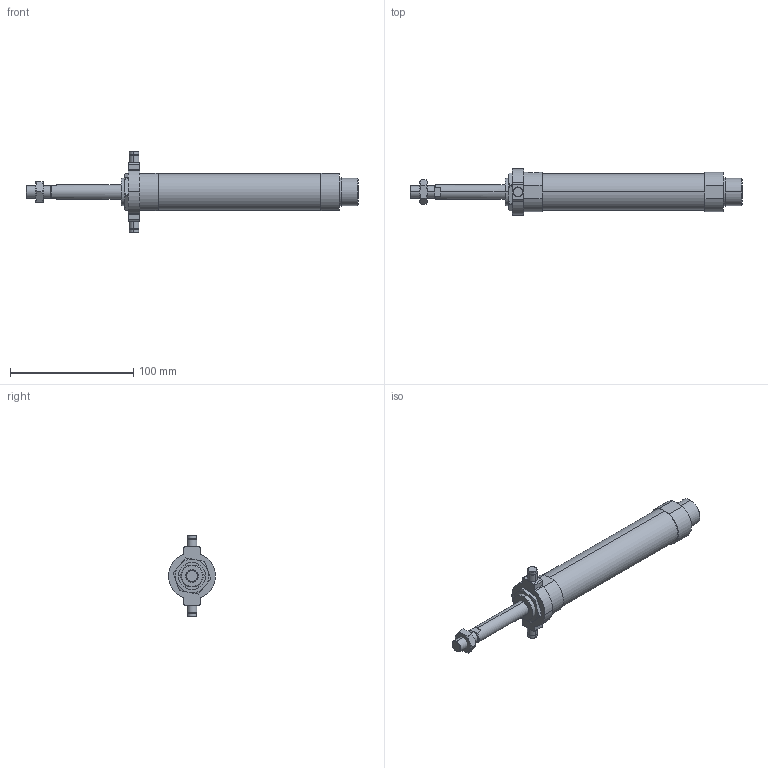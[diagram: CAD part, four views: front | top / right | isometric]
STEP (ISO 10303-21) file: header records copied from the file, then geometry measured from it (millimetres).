
FILE_DESCRIPTION (( 'STEP AP203' ), '1' );
FILE_NAME ('J#0-25-50-T.STEP', '2016-03-08T06:38:29', ( '' ), ( '' ), 'SwSTEP 2.0', 'SolidWorks 2014', '' );
FILE_SCHEMA (( 'CONFIG_CONTROL_DESIGN' ));
Length unit declared in the file: millimetre
Products named in the file (5): J#0-25-50; J#2-25-T; J#0-25-50-T
Assembly tree (4 placements, depth 2):
  J#0-25-50-T
    J#0-25-50
    (unnamed)
    J#2-25-T
    (unnamed)
Bounding box: 269 x 38 x 66 mm (x, y, z)
Volume: 145783.2 mm3; surface area: 28647.8 mm2
Topology: 4 solids, 4 shells, 132 faces, 297 edges, 179 vertices
Faces by surface type: plane 47, cylinder 45, torus 24, cone 16
Entity records: 4426 total; most frequent: CARTESIAN_POINT 971, DIRECTION 645, ORIENTED_EDGE 590, EDGE_CURVE 295, AXIS2_PLACEMENT_3D 265, VERTEX_POINT 179, EDGE_LOOP 146, FACE_OUTER_BOUND 132
